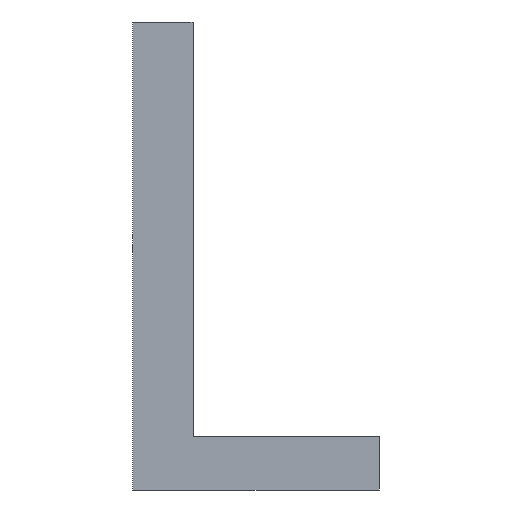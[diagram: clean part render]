
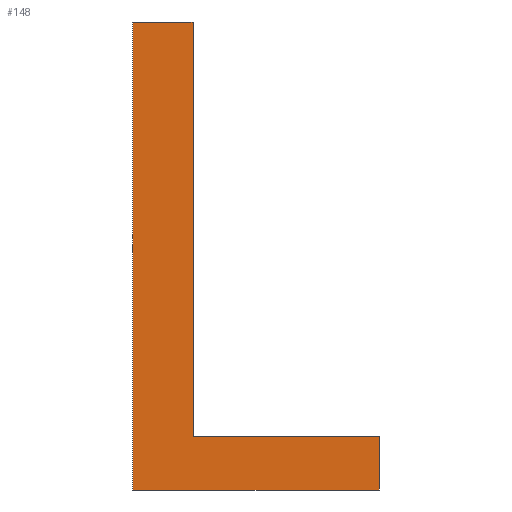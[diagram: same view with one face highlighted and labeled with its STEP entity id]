
A CAD part, front view. The second image highlights one B-rep face of the part: STEP entity #148.
In plain terms, the highlighted planar face has unit normal (0, -1, 0).
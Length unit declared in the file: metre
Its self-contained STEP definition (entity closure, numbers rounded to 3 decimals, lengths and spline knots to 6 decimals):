
#18=ORIENTED_EDGE('',*,*,#54,.T.);
#19=ORIENTED_EDGE('',*,*,#55,.T.);
#20=ORIENTED_EDGE('',*,*,#56,.T.);
#21=ORIENTED_EDGE('',*,*,#57,.T.);
#22=ORIENTED_EDGE('',*,*,#58,.T.);
#23=ORIENTED_EDGE('',*,*,#59,.T.);
#54=EDGE_CURVE('',#72,#73,#84,.T.);
#55=EDGE_CURVE('',#73,#74,#85,.T.);
#56=EDGE_CURVE('',#74,#75,#86,.T.);
#57=EDGE_CURVE('',#75,#76,#87,.T.);
#58=EDGE_CURVE('',#76,#77,#88,.T.);
#59=EDGE_CURVE('',#77,#72,#89,.T.);
#72=VERTEX_POINT('',#276);
#73=VERTEX_POINT('',#277);
#74=VERTEX_POINT('',#279);
#75=VERTEX_POINT('',#281);
#76=VERTEX_POINT('',#283);
#77=VERTEX_POINT('',#285);
#84=LINE('',#275,#102);
#85=LINE('',#278,#103);
#86=LINE('',#280,#104);
#87=LINE('',#282,#105);
#88=LINE('',#284,#106);
#89=LINE('',#286,#107);
#102=VECTOR('',#236,1.);
#103=VECTOR('',#237,1.);
#104=VECTOR('',#238,1.);
#105=VECTOR('',#239,1.);
#106=VECTOR('',#240,1.);
#107=VECTOR('',#241,1.);
#115=EDGE_LOOP('',(#18,#19,#20,#21,#22,#23));
#123=FACE_BOUND('',#115,.T.);
#131=PLANE('',#217);
#148=ADVANCED_FACE('',(#123),#131,.F.);
#217=AXIS2_PLACEMENT_3D('',#274,#234,#235);
#234=DIRECTION('',(0.,1.,0.));
#235=DIRECTION('',(0.,0.,-1.));
#236=DIRECTION('',(0.,0.,1.));
#237=DIRECTION('',(-1.,0.,0.));
#238=DIRECTION('',(0.,0.,1.));
#239=DIRECTION('',(-1.,0.,0.));
#240=DIRECTION('',(0.,0.,-1.));
#241=DIRECTION('',(1.,0.,0.));
#274=CARTESIAN_POINT('',(-0.142414,-0.023259,0.01));
#275=CARTESIAN_POINT('',(-0.145157,-0.023259,0.012471));
#276=CARTESIAN_POINT('',(-0.145157,-0.023259,0.012449));
#277=CARTESIAN_POINT('',(-0.145157,-0.023259,0.012471));
#278=CARTESIAN_POINT('',(-0.145234,-0.023259,0.012471));
#279=CARTESIAN_POINT('',(-0.145234,-0.023259,0.012471));
#280=CARTESIAN_POINT('',(-0.145234,-0.023259,0.012644));
#281=CARTESIAN_POINT('',(-0.145234,-0.023259,0.012644));
#282=CARTESIAN_POINT('',(-0.14526,-0.023259,0.012644));
#283=CARTESIAN_POINT('',(-0.14526,-0.023259,0.012644));
#284=CARTESIAN_POINT('',(-0.14526,-0.023259,0.012449));
#285=CARTESIAN_POINT('',(-0.14526,-0.023259,0.012449));
#286=CARTESIAN_POINT('',(-0.145157,-0.023259,0.012449));
